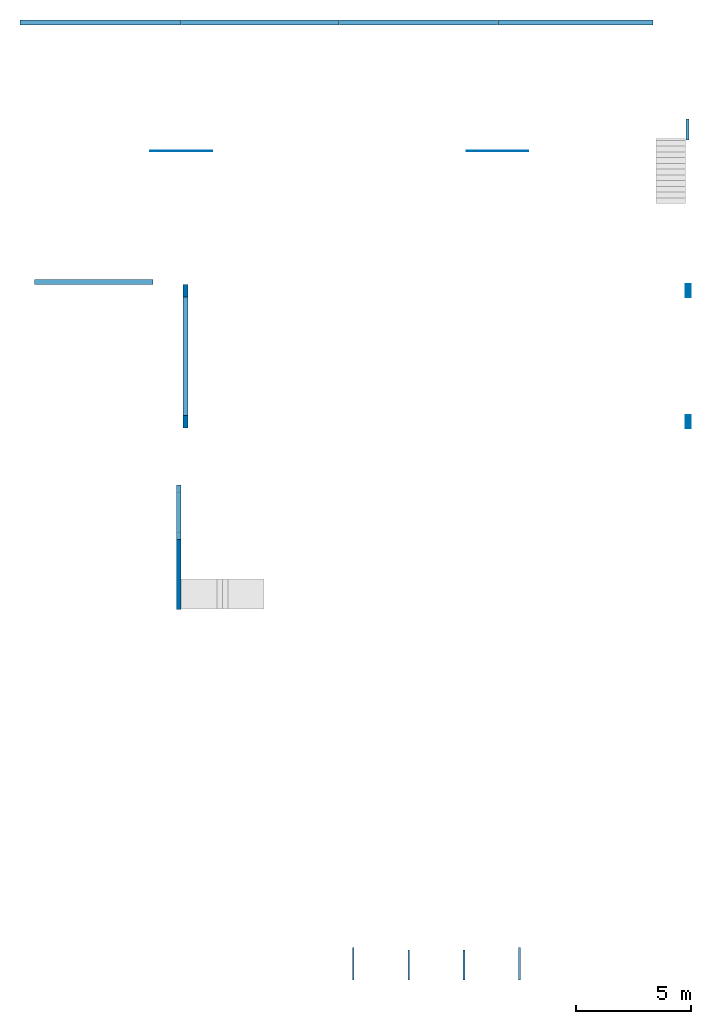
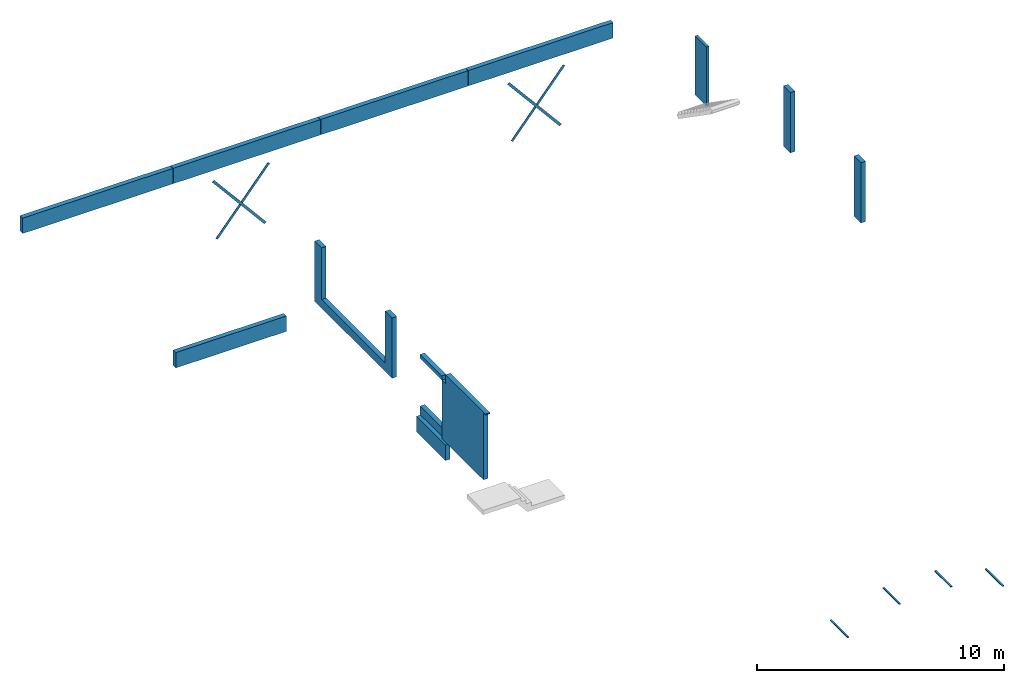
# One storey, part 1 of 2: 14 beams, 5 walls, 3 openings.
"""IFC2X3 building model written with IfcOpenShell, lengths in millimetres."""

from ifc_helpers import new_model, entity, si_unit, converted_unit, derived_unit, direction, frame, frame_2d, origin, origin_2d_with_axis, place, context, subcontext, project, spatial, rectangle, extrude, boolean, faceted_brep, material, layer, layer_set, layer_usage, type_object, element, save


model = new_model("IFC2X3")

# Units and contexts
model_context = context("Model", 3, precision=0.01, world=origin(), true_north=direction((6.123031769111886e-17, 1.0)))
body_context = subcontext(model_context, "Body", "Model", "MODEL_VIEW")
ifc_project = project(units=[si_unit("LENGTHUNIT", "METRE", prefix="MILLI"), si_unit("AREAUNIT", "SQUARE_METRE", prefix="MILLI"), si_unit("VOLUMEUNIT", "CUBIC_METRE"), converted_unit("PLANEANGLEUNIT", "DEGREE", entity("IfcPlaneAngleMeasure", 0.017453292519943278), si_unit("PLANEANGLEUNIT", "RADIAN"), dimensions=[0, 0, 0, 0, 0, 0, 0]), si_unit("MASSUNIT", "GRAM", prefix="KILO"), derived_unit("MASSDENSITYUNIT", [(si_unit("MASSUNIT", "GRAM", prefix="KILO"), 1), (si_unit("LENGTHUNIT", "METRE"), -3)]), derived_unit("IONCONCENTRATIONUNIT", [(si_unit("MASSUNIT", "GRAM", prefix="KILO"), 1), (si_unit("LENGTHUNIT", "METRE"), -3)]), derived_unit("MOMENTOFINERTIAUNIT", [(si_unit("LENGTHUNIT", "METRE"), 4)]), si_unit("TIMEUNIT", "SECOND"), si_unit("FREQUENCYUNIT", "HERTZ"), si_unit("THERMODYNAMICTEMPERATUREUNIT", "DEGREE_CELSIUS"), derived_unit("THERMALTRANSMITTANCEUNIT", [(si_unit("MASSUNIT", "GRAM", prefix="KILO"), 1), (si_unit("THERMODYNAMICTEMPERATUREUNIT", "KELVIN"), -1), (si_unit("TIMEUNIT", "SECOND"), -3)]), derived_unit("THERMALCONDUCTANCEUNIT", [(si_unit("MASSUNIT", "GRAM", prefix="KILO"), 1), (si_unit("THERMODYNAMICTEMPERATUREUNIT", "KELVIN"), -1), (si_unit("TIMEUNIT", "SECOND"), -3), (si_unit("LENGTHUNIT", "METRE"), 1)]), derived_unit("VOLUMETRICFLOWRATEUNIT", [(si_unit("LENGTHUNIT", "METRE", prefix="DECI"), 3), (si_unit("TIMEUNIT", "SECOND"), -1)]), derived_unit("MASSFLOWRATEUNIT", [(si_unit("MASSUNIT", "GRAM", prefix="KILO"), 1), (si_unit("TIMEUNIT", "SECOND"), -1)]), derived_unit("ROTATIONALFREQUENCYUNIT", [(si_unit("TIMEUNIT", "SECOND"), -1)]), si_unit("ELECTRICCURRENTUNIT", "AMPERE"), si_unit("ELECTRICVOLTAGEUNIT", "VOLT"), si_unit("POWERUNIT", "WATT"), si_unit("FORCEUNIT", "NEWTON", prefix="KILO"), si_unit("ILLUMINANCEUNIT", "LUX"), si_unit("LUMINOUSFLUXUNIT", "LUMEN"), si_unit("LUMINOUSINTENSITYUNIT", "CANDELA"), si_unit("ENERGYUNIT", "JOULE"), derived_unit("USERDEFINED", [(si_unit("MASSUNIT", "GRAM", prefix="KILO"), -1), (si_unit("LENGTHUNIT", "METRE"), -2), (si_unit("TIMEUNIT", "SECOND"), 3), (si_unit("LUMINOUSFLUXUNIT", "LUMEN"), 1)]), derived_unit("USERDEFINED", [(si_unit("MASSUNIT", "GRAM", prefix="KILO"), 1), (si_unit("TIMEUNIT", "SECOND"), -3), (si_unit("LENGTHUNIT", "METRE"), 3), (si_unit("ELECTRICCURRENTUNIT", "AMPERE"), -2)]), derived_unit("SOUNDPOWERUNIT", [(si_unit("MASSUNIT", "GRAM", prefix="KILO"), 1), (si_unit("TIMEUNIT", "SECOND"), -3), (si_unit("LENGTHUNIT", "METRE"), 2)]), derived_unit("SOUNDPRESSUREUNIT", [(si_unit("MASSUNIT", "GRAM", prefix="KILO"), 1), (si_unit("LENGTHUNIT", "METRE"), -1), (si_unit("TIMEUNIT", "SECOND"), -2)]), derived_unit("LINEARVELOCITYUNIT", [(si_unit("LENGTHUNIT", "METRE"), 1), (si_unit("TIMEUNIT", "SECOND"), -1)]), si_unit("PRESSUREUNIT", "PASCAL"), derived_unit("USERDEFINED", [(si_unit("MASSUNIT", "GRAM", prefix="KILO"), 1), (si_unit("LENGTHUNIT", "METRE"), -2), (si_unit("TIMEUNIT", "SECOND"), -2)]), derived_unit("LINEARFORCEUNIT", [(si_unit("MASSUNIT", "GRAM", prefix="KILO"), 1), (si_unit("TIMEUNIT", "SECOND"), -2)]), derived_unit("PLANARFORCEUNIT", [(si_unit("MASSUNIT", "GRAM", prefix="KILO"), 1), (si_unit("LENGTHUNIT", "METRE"), -1), (si_unit("TIMEUNIT", "SECOND"), -2)]), derived_unit("SPECIFICHEATCAPACITYUNIT", [(si_unit("THERMODYNAMICTEMPERATUREUNIT", "KELVIN"), -1), (si_unit("LENGTHUNIT", "METRE"), 2), (si_unit("TIMEUNIT", "SECOND"), -2)]), derived_unit("HEATFLUXDENSITYUNIT", [(si_unit("MASSUNIT", "GRAM", prefix="KILO"), 1), (si_unit("TIMEUNIT", "SECOND"), -3)]), derived_unit("HEATINGVALUEUNIT", [(si_unit("LENGTHUNIT", "METRE"), 2), (si_unit("TIMEUNIT", "SECOND"), -2)]), derived_unit("VAPORPERMEABILITYUNIT", [(si_unit("LENGTHUNIT", "METRE"), -1), (si_unit("TIMEUNIT", "SECOND"), 1)]), derived_unit("DYNAMICVISCOSITYUNIT", [(si_unit("MASSUNIT", "GRAM", prefix="KILO"), 1), (si_unit("TIMEUNIT", "SECOND"), -1), (si_unit("LENGTHUNIT", "METRE"), -1)]), derived_unit("THERMALEXPANSIONCOEFFICIENTUNIT", [(si_unit("THERMODYNAMICTEMPERATUREUNIT", "KELVIN"), -1)]), derived_unit("MODULUSOFELASTICITYUNIT", [(si_unit("MASSUNIT", "GRAM", prefix="KILO"), 1), (si_unit("LENGTHUNIT", "METRE"), -1), (si_unit("TIMEUNIT", "SECOND"), -2)]), derived_unit("ISOTHERMALMOISTURECAPACITYUNIT", [(si_unit("MASSUNIT", "GRAM", prefix="KILO"), -1), (si_unit("LENGTHUNIT", "METRE"), 3)]), derived_unit("MOISTUREDIFFUSIVITYUNIT", [(si_unit("TIMEUNIT", "SECOND"), -1), (si_unit("LENGTHUNIT", "METRE"), 2)]), derived_unit("MASSPERLENGTHUNIT", [(si_unit("MASSUNIT", "GRAM", prefix="KILO"), 1), (si_unit("LENGTHUNIT", "METRE"), -1)]), derived_unit("THERMALRESISTANCEUNIT", [(si_unit("MASSUNIT", "GRAM", prefix="KILO"), -1), (si_unit("TIMEUNIT", "SECOND"), 3), (si_unit("THERMODYNAMICTEMPERATUREUNIT", "KELVIN"), 1)]), derived_unit("ACCELERATIONUNIT", [(si_unit("LENGTHUNIT", "METRE"), 1), (si_unit("TIMEUNIT", "SECOND"), -2)]), derived_unit("ANGULARVELOCITYUNIT", [(si_unit("TIMEUNIT", "SECOND"), -1), (si_unit("PLANEANGLEUNIT", "RADIAN"), 1)]), derived_unit("LINEARSTIFFNESSUNIT", [(si_unit("MASSUNIT", "GRAM", prefix="KILO"), 1), (si_unit("TIMEUNIT", "SECOND"), -2)]), derived_unit("WARPINGCONSTANTUNIT", [(si_unit("LENGTHUNIT", "METRE"), 6)]), derived_unit("LINEARMOMENTUNIT", [(si_unit("MASSUNIT", "GRAM", prefix="KILO"), 1), (si_unit("LENGTHUNIT", "METRE"), 1), (si_unit("TIMEUNIT", "SECOND"), -2)]), derived_unit("TORQUEUNIT", [(si_unit("MASSUNIT", "GRAM", prefix="KILO"), 1), (si_unit("LENGTHUNIT", "METRE"), 2), (si_unit("TIMEUNIT", "SECOND"), -2)])], contexts=[model_context])

# Site, building, storey
site_placement = place(None, origin())
site = spatial("IfcSite", under=ifc_project, at=site_placement, Name="Default", CompositionType="ELEMENT")
building_placement = place(site_placement, origin())
building = spatial("IfcBuilding", under=site, at=building_placement, CompositionType="ELEMENT")
storey_placement = place(building_placement, frame((0.0, 0.0, 5000.0)))
storey = spatial("IfcBuildingStorey", under=building, at=storey_placement, Name="KDV V2 werkbalken", CompositionType="ELEMENT", Elevation=5000.000000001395)

# Beams
ifc_material_1 = material(Name="Beton, prefab")
beam_type_1 = type_object("IfcBeamType", Name="btl_prefab - RBeam:214x762", PredefinedType="NOTDEFINED")
beam_1_placement = place(storey_placement, frame((725.6518038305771, 31937.573165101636, 2270.0)))
element("IfcBeam", 1, at=beam_1_placement, inside=storey, type_object=beam_type_1, material=ifc_material_1, Name="btl_prefab - RBeam:214x762", ObjectType="btl_prefab - RBeam:214x762", context=body_context, shape_type="SweptSolid", body=[
    extrude(rectangle(XDim=762.0, YDim=214.00000000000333, at=origin_2d_with_axis()), frame((-300.0, 0.0, -381.0), z_axis=(1.0, 0.0, 0.0), x_axis=(0.0, 0.0, -1.0)), (0.0, 0.0, 1.0), 5159.996607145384),
])
beam_2_placement = place(storey_placement, frame((-214.0, 43251.57316510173, 2270.0)))
element("IfcBeam", 2, at=beam_2_placement, inside=storey, type_object=beam_type_1, material=ifc_material_1, Name="btl_prefab - RBeam:214x762", ObjectType="btl_prefab - RBeam:214x762", context=body_context, shape_type="SweptSolid", body=[
    extrude(rectangle(XDim=762.0, YDim=214.00000000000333, at=origin_2d_with_axis()), frame((10.0, 0.0, -381.0), z_axis=(1.0, 0.0, 0.0), x_axis=(0.0, 0.0, -1.0)), (0.0, 0.0, 1.0), 7019.000781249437),
])
beam_3_placement = place(storey_placement, frame((6825.0007812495, 43251.573165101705, 2270.0)))
element("IfcBeam", 3, at=beam_3_placement, inside=storey, type_object=beam_type_1, material=ifc_material_1, Name="btl_prefab - RBeam:214x762", ObjectType="btl_prefab - RBeam:214x762", context=body_context, shape_type="SweptSolid", body=[
    extrude(rectangle(XDim=762.0, YDim=214.00000000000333, at=origin_2d_with_axis()), frame((10.0, 0.0, -381.0), z_axis=(1.0, 0.0, 0.0), x_axis=(0.0, 0.0, -1.0)), (0.0, 0.0, 1.0), 6880.000000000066),
])
beam_4_placement = place(storey_placement, frame((13725.000781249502, 43251.573165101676, 2270.0)))
element("IfcBeam", 4, at=beam_4_placement, inside=storey, type_object=beam_type_1, material=ifc_material_1, Name="btl_prefab - RBeam:214x762", ObjectType="btl_prefab - RBeam:214x762", context=body_context, shape_type="SweptSolid", body=[
    extrude(rectangle(XDim=762.0, YDim=214.00000000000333, at=origin_2d_with_axis()), frame((10.0, 0.0, -381.0), z_axis=(1.0, 0.0, 0.0), x_axis=(0.0, 0.0, -1.0)), (0.0, 0.0, 1.0), 6879.983872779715),
])
beam_5_placement = place(storey_placement, frame((20624.984654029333, 43251.57316510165, 2270.0)))
element("IfcBeam", 5, at=beam_5_placement, inside=storey, type_object=beam_type_1, material=ifc_material_1, Name="btl_prefab - RBeam:214x762", ObjectType="btl_prefab - RBeam:214x762", context=body_context, shape_type="SweptSolid", body=[
    extrude(rectangle(XDim=762.0, YDim=214.00000000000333, at=origin_2d_with_axis()), frame((10.0, 0.0, -381.0), z_axis=(1.0, 0.0, 0.0), x_axis=(0.0, 0.0, -1.0)), (0.0, 0.0, 1.0), 6760.727196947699),
])
beam_6_placement = place(storey_placement, frame((6718.000781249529, 22771.135781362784, 2270.0), z_axis=(0.0, 0.0, 1.0), x_axis=(0.0, -1.0, 0.0)))
element("IfcBeam", 6, at=beam_6_placement, inside=storey, type_object=beam_type_1, material=ifc_material_1, Name="btl_prefab - RBeam:214x762", ObjectType="btl_prefab - RBeam:214x762", context=body_context, shape_type="SweptSolid", body=[
    extrude(rectangle(XDim=762.0, YDim=214.00000000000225, at=frame_2d((1.0800249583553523e-12, -5.400124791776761e-13), x_axis=(1.0, 0.0))), frame((-300.0, 0.0, -381.0), z_axis=(1.0, 0.0, 0.0), x_axis=(0.0, 0.0, -1.0)), (0.0, 0.0, 1.0), 2360.0854533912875),
])
ifc_material_2 = material(Name="Metal - Steel - S275 J0H (standaard-kokers/buizen)")
beam_type_2 = type_object("IfcBeamType", Name="btl_staal - Koker:K80x40x5.0", PredefinedType="NOTDEFINED")
beam_7_placement = place(storey_placement, frame((19159.80512491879, 1336.8868802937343, 2530.0), z_axis=(0.0, 0.0, 1.0), x_axis=(0.0, 1.0, 0.0)))
element("IfcBeam", 7, at=beam_7_placement, inside=storey, type_object=beam_type_2, material=ifc_material_2, Name="btl_staal - Koker:K80x40x5.0", ObjectType="btl_staal - Koker:K80x40x5.0", context=body_context, shape_type="SweptSolid", body=[
    boolean("DIFFERENCE", extrude(rectangle(XDim=40.000000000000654, YDim=79.99999999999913, at=frame_2d((5.417888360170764e-13, -1.0800249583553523e-12), x_axis=(1.0, 0.0))), frame((155.33043504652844, 0.0, 0.0), z_axis=(1.0, 0.0, 0.0), x_axis=(0.0, 0.0, -1.0)), (0.0, 0.0, 1.0), 1318.5679537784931), extrude(rectangle(XDim=29.999999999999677, YDim=69.99999999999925, at=frame_2d((0.0, 0.0), x_axis=(0.0, 1.0))), frame((1473.8983888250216, 0.0, 0.0), z_axis=(-1.0, 0.0, 0.0), x_axis=(0.0, 1.0, 0.0)), (0.0, 0.0, 1.0), 1318.5679537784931)),
])
beam_8_placement = place(storey_placement, frame((16746.1801885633, 1336.886880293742, 2530.0), z_axis=(0.0, 0.0, 1.0), x_axis=(0.0, 1.0, 0.0)))
element("IfcBeam", 8, at=beam_8_placement, inside=storey, type_object=beam_type_2, material=ifc_material_2, Name="btl_staal - Koker:K80x40x5.0", ObjectType="btl_staal - Koker:K80x40x5.0", context=body_context, shape_type="SweptSolid", body=[
    boolean("DIFFERENCE", extrude(rectangle(XDim=40.000000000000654, YDim=79.99999999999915, at=frame_2d((5.417888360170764e-13, 1.0800249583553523e-12), x_axis=(1.0, 0.0))), frame((155.33043504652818, 0.0, 0.0), z_axis=(1.0, 0.0, 0.0), x_axis=(0.0, 0.0, -1.0)), (0.0, 0.0, 1.0), 1318.5679537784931), extrude(rectangle(XDim=29.999999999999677, YDim=69.99999999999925, at=frame_2d((0.0, 0.0), x_axis=(0.0, 1.0))), frame((1473.8983888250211, 0.0, 0.0), z_axis=(-1.0, 0.0, 0.0), x_axis=(0.0, 1.0, 0.0)), (0.0, 0.0, 1.0), 1318.567953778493)),
])
beam_9_placement = place(storey_placement, frame((14332.555252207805, 1336.88688029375, 1725.0), z_axis=(0.0, 0.0, 1.0), x_axis=(0.0, 1.0, 0.0)))
element("IfcBeam", 9, at=beam_9_placement, inside=storey, type_object=beam_type_2, material=ifc_material_2, Name="btl_staal - Koker:K80x40x5.0", ObjectType="btl_staal - Koker:K80x40x5.0", context=body_context, shape_type="SweptSolid", body=[
    boolean("DIFFERENCE", extrude(rectangle(XDim=40.000000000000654, YDim=79.99999999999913, at=frame_2d((5.417888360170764e-13, -1.0800249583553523e-12), x_axis=(1.0, 0.0))), frame((155.3304350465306, 0.0, 0.0), z_axis=(1.0, 0.0, 0.0), x_axis=(0.0, 0.0, -1.0)), (0.0, 0.0, 1.0), 1407.6876977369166), extrude(rectangle(XDim=29.999999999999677, YDim=69.99999999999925, at=frame_2d((0.0, 0.0), x_axis=(0.0, 1.0))), frame((1563.0181327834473, 0.0, 0.0), z_axis=(-1.0, 0.0, 0.0), x_axis=(0.0, 1.0, 0.0)), (0.0, 0.0, 1.0), 1407.6876977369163)),
])
beam_10_placement = place(storey_placement, frame((21573.430061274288, 1336.8868802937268, 1725.0), z_axis=(0.0, 0.0, 1.0), x_axis=(0.0, 1.0, 0.0)))
element("IfcBeam", 10, at=beam_10_placement, inside=storey, type_object=beam_type_2, material=ifc_material_2, Name="btl_staal - Koker:K80x40x5.0", ObjectType="btl_staal - Koker:K80x40x5.0", context=body_context, shape_type="SweptSolid", body=[
    boolean("DIFFERENCE", extrude(rectangle(XDim=40.000000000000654, YDim=79.99999999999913, at=frame_2d((5.417888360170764e-13, 0.0), x_axis=(1.0, 0.0))), frame((155.33043504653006, 0.0, 0.0), z_axis=(1.0, 0.0, 0.0), x_axis=(0.0, 0.0, -1.0)), (0.0, 0.0, 1.0), 1407.6876977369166), extrude(rectangle(XDim=29.999999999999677, YDim=70.0000000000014, at=frame_2d((0.0, 0.0), x_axis=(0.0, 1.0))), frame((1563.0181327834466, 0.0, 0.0), z_axis=(-1.0, 0.0, 0.0), x_axis=(0.0, 1.0, 0.0)), (0.0, 0.0, 1.0), 1407.6876977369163)),
])
ifc_material_3 = material(Name="Metal - Steel - S235 JRG2 (standaard)")
beam_type_3 = type_object("IfcBeamType", Name="btl_staal - Strip b x h:120x15 Vwvb", PredefinedType="NOTDEFINED")
beam_11_placement = place(storey_placement, frame((5525.000781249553, 37644.573205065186, 2323.0), z_axis=(0.7663525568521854, 0.0, -0.642420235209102), x_axis=(0.642420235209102, 0.0, 0.7663525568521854)))
element("IfcBeam", 11, at=beam_11_placement, inside=storey, type_object=beam_type_3, material=ifc_material_3, Name="btl_staal - Strip b x h:120x15 Vwvb", ObjectType="btl_staal - Strip b x h:120x15 Vwvb", context=body_context, shape_type="SweptSolid", body=[
    extrude(rectangle(XDim=120.00000000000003, YDim=15.000000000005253, at=frame_2d((-7.673861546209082e-13, -4.331646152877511e-12), x_axis=(1.0, 0.0))), frame((254.81469310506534, 0.0, 0.0), z_axis=(1.0, 0.0, 0.0), x_axis=(0.0, 0.0, -1.0)), (0.0, 0.0, 1.0), 3792.9306589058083),
])
beam_12_placement = place(storey_placement, frame((5524.632248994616, 37644.573205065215, 5425.0), z_axis=(0.7663525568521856, 0.0, 0.6424202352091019), x_axis=(0.6424202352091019, 0.0, -0.7663525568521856)))
element("IfcBeam", 12, at=beam_12_placement, inside=storey, type_object=beam_type_3, material=ifc_material_3, Name="btl_staal - Strip b x h:120x15 Vwvb", ObjectType="btl_staal - Strip b x h:120x15 Vwvb", context=body_context, shape_type="SweptSolid", body=[
    extrude(rectangle(XDim=119.99999999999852, YDim=15.000000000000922, at=frame_2d((1.1119993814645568e-12, 4.331646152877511e-12), x_axis=(1.0, 0.0))), frame((0.0, 0.0, 0.0), z_axis=(1.0, 0.0, 0.0), x_axis=(0.0, 0.0, -1.0)), (0.0, 0.0, 1.0), 3792.9306589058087),
])
beam_13_placement = place(storey_placement, frame((19324.825438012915, 37644.57320506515, 2323.0), z_axis=(0.766279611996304, -0.0003106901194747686, -0.6425071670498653), x_axis=(0.6425072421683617, 0.00037054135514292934, 0.7662795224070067)))
element("IfcBeam", 13, at=beam_13_placement, inside=storey, type_object=beam_type_3, material=ifc_material_3, Name="btl_staal - Strip b x h:120x15 Vwvb", ObjectType="btl_staal - Strip b x h:120x15 Vwvb", context=body_context, shape_type="SweptSolid", body=[
    extrude(rectangle(XDim=120.00000000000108, YDim=15.000000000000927, at=frame_2d((1.8758328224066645e-12, -4.440892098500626e-16), x_axis=(1.0, 0.0))), frame((254.8445902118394, 0.0, 0.0), z_axis=(1.0, 0.0, 0.0), x_axis=(0.0, -0.0007526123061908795, 0.9999997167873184)), (0.0, 0.0, 1.0), 3793.2865542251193),
])
beam_14_placement = place(storey_placement, frame((19324.229728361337, 37644.57286151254, 5425.0), z_axis=(0.7662796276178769, -7.11589375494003e-08, 0.64250722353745), x_axis=(0.642507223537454, 8.48669745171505e-08, -0.7662796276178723)))
element("IfcBeam", 14, at=beam_14_placement, inside=storey, type_object=beam_type_3, material=ifc_material_3, Name="btl_staal - Strip b x h:120x15 Vwvb", ObjectType="btl_staal - Strip b x h:120x15 Vwvb", context=body_context, shape_type="SweptSolid", body=[
    extrude(rectangle(XDim=119.99999999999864, YDim=15.000000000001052, at=frame_2d((0.0, 1.5276668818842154e-12), x_axis=(0.0, 1.0))), frame((0.0, 0.0, 0.0), z_axis=(1.0, 0.0, 0.0), x_axis=(0.0, -1.0, 1.7237460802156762e-07)), (0.0, 0.0, 1.0), 3793.2860414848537),
])

# Wall
ifc_material_4 = material(Name="Kalkzandsteen, lijmwerk CS12")
ifc_layer_1 = layer(ifc_material_4, 214.0)
ifc_layer_set_1 = layer_set([ifc_layer_1], Name="Basic Wall:bt_kzst 214")
wall_type_1 = type_object("IfcWallType", Name="Basic Wall:bt_kzst 214", PredefinedType="STANDARD", material=ifc_layer_set_1)
wall_1_placement = place(storey_placement, frame((6718.000781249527, 21011.0503279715, 2413.0999999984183), z_axis=(0.0, 0.0, 1.0), x_axis=(0.0, -1.0, 0.0)))
element("IfcWall", 15, at=wall_1_placement, inside=storey, type_object=wall_type_1, Name="Basic Wall:bt_kzst 214", ObjectType="Basic Wall:bt_kzst 214", context=body_context, shape_type="Brep", body=[
    faceted_brep([(0.0, -107.0, 0.0), (3366.445314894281, -107.0, 0.0), (3366.445314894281, -107.0, 116.89999999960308), (3366.445314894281, -107.0, 3284.8531250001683), (3516.445314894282, -107.0, 3284.8531250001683), (3516.445314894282, -107.0, 3341.853124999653), (300.0, -107.0, 3341.853124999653), (300.0, -107.0, 2894.892346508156), (0.0, -107.0, 2894.892346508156), (0.0, -107.0, 116.90000000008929), (3366.445314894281, 107.0, 3284.8531250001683), (3366.445314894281, 107.0, 0.0), (0.0, 107.0, 0.0), (0.0, 107.0, 116.90000000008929), (0.0, 107.0, 2894.892346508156), (300.0, 107.0, 2894.892346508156), (300.0, 107.0, 3341.853124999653), (3516.445314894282, 107.0, 3341.853124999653), (3516.445314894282, 107.0, 3284.8531250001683)], [[[0, 1, 2, 3, 4, 5, 6, 7, 8, 9]], [[10, 11, 12, 13, 14, 15, 16, 17, 18]], [[1, 0, 12, 11]], [[5, 17, 16, 6]], [[12, 0, 9, 8, 14, 13]], [[7, 15, 14, 8]], [[15, 7, 6, 16]], [[5, 4, 18, 17]], [[18, 4, 3, 10]], [[1, 11, 10, 3, 2]]]),
])

# Wall, opening
ifc_layer_usage_1 = layer_usage(ifc_layer_set_1, "AXIS2", "POSITIVE", -107.0)
wall_2_placement = place(storey_placement, frame((6718.00078124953, 22771.135781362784, 2530.0), z_axis=(0.0, 0.0, 1.0), x_axis=(0.0, -1.0, 0.0)))
wall_2 = element("IfcWallStandardCase", 16, at=wall_2_placement, inside=storey, type_object=wall_type_1, material=ifc_layer_usage_1, Name="Basic Wall:bt_kzst 214", ObjectType="Basic Wall:bt_kzst 214", context=body_context, shape_type="SweptSolid", body=[
    extrude(rectangle(XDim=1760.0854533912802, YDim=214.00000000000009, at=frame_2d((880.0427266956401, -6.323830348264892e-13), x_axis=(-1.0, 0.0))), origin(), (0.0, 0.0, 1.0), 2977.9999999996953),
])
opening_1_placement = place(wall_2_placement, frame((22771.135781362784, -6718.00078124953, 0.0), z_axis=(0.0, 0.0, 1.0), x_axis=(0.0, 1.0, 0.0)))
element("IfcOpeningElement", 17, at=opening_1_placement, cuts=wall_2, Name="Basic Wall:bt_kzst 214", ObjectType="Opening", context=body_context, shape_type="SweptSolid", body=[
    extrude(rectangle(XDim=2348.000000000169, YDim=1760.092701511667, at=frame_2d((0.0, -2.1600499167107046e-12), x_axis=(1.0, 0.0))), frame((5301.000781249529, 21892.717448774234, 1604.0), z_axis=(1.0, 0.0, 0.0), x_axis=(0.0, 0.0, -1.0)), (0.0, 0.0, 1.0), 3048.0),
])

wall_3_placement = place(storey_placement, frame((7018.024359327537, 31830.57320506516, 2530.0), z_axis=(0.0, 0.0, 1.0), x_axis=(0.0, -1.0, 0.0)))
wall_3 = element("IfcWallStandardCase", 18, at=wall_3_placement, inside=storey, type_object=wall_type_1, material=ifc_layer_usage_1, Name="Basic Wall:bt_kzst 214", ObjectType="Basic Wall:bt_kzst 214", context=body_context, shape_type="SweptSolid", body=[
    extrude(rectangle(XDim=6271.99538690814, YDim=214.00000000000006, at=frame_2d((3135.9976934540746, -5.115907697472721e-13), x_axis=(-1.0, 0.0))), origin(), (0.0, 0.0, 1.0), 2977.992346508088),
])
opening_2_placement = place(wall_3_placement, frame((31830.57320506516, -7018.024359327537, 0.0), z_axis=(0.0, 0.0, 1.0), x_axis=(0.0, 1.0, 0.0)))
element("IfcOpeningElement", 19, at=opening_2_placement, cuts=wall_3, Name="Basic Wall:bt_kzst 214", ObjectType="Opening", context=body_context, shape_type="SweptSolid", body=[
    extrude(rectangle(XDim=2547.992346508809, YDim=5150.25144660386, at=frame_2d((1.1368683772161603e-12, 2.2737367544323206e-12), x_axis=(1.0, 0.0))), frame((5601.024359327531, 28695.961997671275, 1703.9961732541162), z_axis=(1.0, 0.0, 0.0), x_axis=(0.0, 0.0, -1.0)), (0.0, 0.0, 1.0), 3048.0),
])

wall_4_placement = place(storey_placement, frame((28931.982962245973, 31830.573205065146, 2530.0), z_axis=(0.0, 0.0, 1.0), x_axis=(0.0, -1.0, 0.0)))
wall_4 = element("IfcWallStandardCase", 20, at=wall_4_placement, inside=storey, type_object=wall_type_1, material=ifc_layer_usage_1, Name="Basic Wall:bt_kzst 214", ObjectType="Basic Wall:bt_kzst 214", context=body_context, shape_type="SweptSolid", body=[
    extrude(rectangle(XDim=6271.995386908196, YDim=214.00000000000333, at=frame_2d((3135.997693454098, 1.1084466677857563e-12), x_axis=(-1.0, 0.0))), origin(), (0.0, 0.0, 1.0), 2977.992346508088),
])
opening_3_placement = place(wall_4_placement, frame((31830.573205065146, -28931.982962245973, 0.0), z_axis=(0.0, 0.0, 1.0), x_axis=(0.0, 1.0, 0.0)))
element("IfcOpeningElement", 21, at=opening_3_placement, cuts=wall_4, Name="Basic Wall:bt_kzst 214", ObjectType="Opening", context=body_context, shape_type="SweptSolid", body=[
    extrude(rectangle(XDim=2977.992346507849, YDim=5150.25144660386, at=frame_2d((1.0231815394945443e-12, 2.2737367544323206e-12), x_axis=(1.0, 0.0))), frame((27514.982962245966, 28695.961997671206, 1488.996173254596), z_axis=(1.0, 0.0, 0.0), x_axis=(0.0, 0.0, -1.0)), (0.0, 0.0, 1.0), 3048.0),
])

# Wall
ifc_layer_2 = layer(ifc_material_1, 120.0)
ifc_layer_set_2 = layer_set([ifc_layer_2], Name="Basic Wall:bt_prefab betonwand d=120")
ifc_layer_usage_2 = layer_usage(ifc_layer_set_2, "AXIS2", "POSITIVE", -60.0)
wall_type_2 = type_object("IfcWallType", Name="Basic Wall:bt_prefab betonwand d=120", PredefinedType="STANDARD", material=ifc_layer_set_2)
wall_5_placement = place(storey_placement, frame((28908.519409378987, 39034.573205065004, 690.0), z_axis=(0.0, 0.0, 1.0), x_axis=(0.0, -1.0, 0.0)))
element("IfcWallStandardCase", 22, at=wall_5_placement, inside=storey, type_object=wall_type_2, material=ifc_layer_usage_2, Name="Basic Wall:bt_prefab betonwand d=120", ObjectType="Basic Wall:bt_prefab betonwand d=120", context=body_context, shape_type="SweptSolid", body=[
    extrude(rectangle(XDim=919.9999999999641, YDim=119.9999999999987, at=frame_2d((459.99999999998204, 0.0), x_axis=(-1.0, 0.0))), origin(), (0.0, 0.0, 1.0), 2909.999999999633),
])

save(model, "model.ifc")
